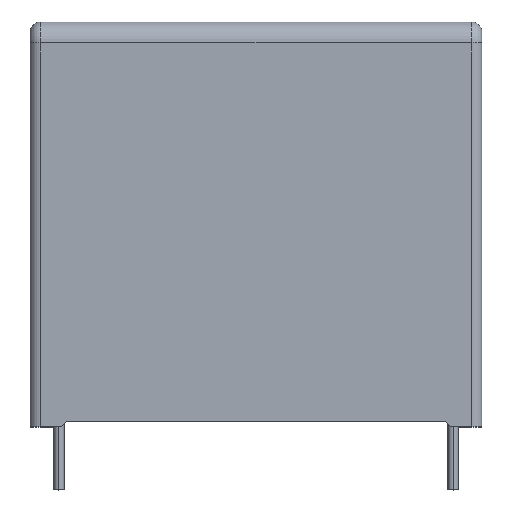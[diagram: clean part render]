
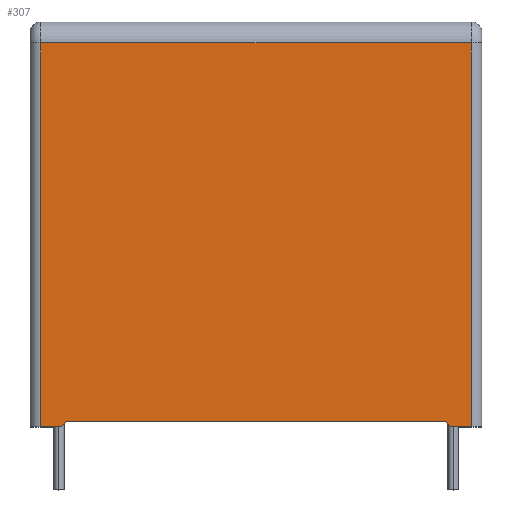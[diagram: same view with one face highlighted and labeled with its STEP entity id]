
A CAD part, top view. The second image highlights one B-rep face of the part: STEP entity #307.
In plain terms, the highlighted planar face has unit normal (0, 0, 1).
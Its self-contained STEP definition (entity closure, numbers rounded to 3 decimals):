
#73 = CARTESIAN_POINT ( 'NONE',  ( 20.5, 0., 10.75 ) ) ;
#91 = CARTESIAN_POINT ( 'NONE',  ( 18., 0.5, 10.75 ) ) ;
#307 = ADVANCED_FACE ( 'NONE', ( #355 ), #1691, .F. ) ;
#355 = FACE_OUTER_BOUND ( 'NONE', #1961, .T. ) ;
#478 = CARTESIAN_POINT ( 'NONE',  ( -18.5, 0., 10.75 ) ) ;
#519 = CARTESIAN_POINT ( 'NONE',  ( -21.5, 36.5, 10.75 ) ) ;
#652 = CARTESIAN_POINT ( 'NONE',  ( -18.5, 0., 10.75 ) ) ;
#699 = VECTOR ( 'NONE', #3357, 1000. ) ;
#919 = AXIS2_PLACEMENT_3D ( 'NONE', #1685, #1672, #1662 ) ;
#955 = LINE ( 'NONE', #3065, #699 ) ;
#1083 = CARTESIAN_POINT ( 'NONE',  ( -20.5, 0., 10.75 ) ) ;
#1128 = CARTESIAN_POINT ( 'NONE',  ( 18., 0.5, 10.75 ) ) ;
#1350 = EDGE_CURVE ( 'NONE', #1977, #2040, #955, .T. ) ;
#1431 = EDGE_CURVE ( 'NONE', #2050, #2539, #3815, .T. ) ;
#1466 = LINE ( 'NONE', #2249, #2009 ) ;
#1593 = ORIENTED_EDGE ( 'NONE', *, *, #1684, .T. ) ;
#1616 = ORIENTED_EDGE ( 'NONE', *, *, #1431, .F. ) ;
#1662 = DIRECTION ( 'NONE',  ( -1., 0., 0. ) ) ;
#1672 = DIRECTION ( 'NONE',  ( 0., 0., -1. ) ) ;
#1684 = EDGE_CURVE ( 'NONE', #2501, #2539, #2239, .T. ) ;
#1685 = CARTESIAN_POINT ( 'NONE',  ( -21.5, 38.5, 10.75 ) ) ;
#1691 = PLANE ( 'NONE',  #919 ) ;
#1738 = ORIENTED_EDGE ( 'NONE', *, *, #2137, .T. ) ;
#1746 = DIRECTION ( 'NONE',  ( -1., 0., 0. ) ) ;
#1850 = VECTOR ( 'NONE', #1746, 1000. ) ;
#1921 = EDGE_CURVE ( 'NONE', #2491, #2501, #3146, .T. ) ;
#1961 = EDGE_LOOP ( 'NONE', ( #2870, #4249, #4025, #4089, #1738, #3739, #1593, #1616 ) ) ;
#1977 = VERTEX_POINT ( 'NONE', #2758 ) ;
#2009 = VECTOR ( 'NONE', #3542, 1000. ) ;
#2012 = LINE ( 'NONE', #3426, #4472 ) ;
#2040 = VERTEX_POINT ( 'NONE', #73 ) ;
#2045 = VERTEX_POINT ( 'NONE', #3944 ) ;
#2050 = VERTEX_POINT ( 'NONE', #2053 ) ;
#2053 = CARTESIAN_POINT ( 'NONE',  ( -18., 0.5, 10.75 ) ) ;
#2137 = EDGE_CURVE ( 'NONE', #2045, #2491, #4321, .T. ) ;
#2138 = VERTEX_POINT ( 'NONE', #91 ) ;
#2202 = CARTESIAN_POINT ( 'NONE',  ( -21.5, 0., 10.75 ) ) ;
#2239 = LINE ( 'NONE', #2202, #3756 ) ;
#2249 = CARTESIAN_POINT ( 'NONE',  ( -18., 0.5, 10.75 ) ) ;
#2381 = CARTESIAN_POINT ( 'NONE',  ( -20.5, 38.5, 10.75 ) ) ;
#2391 = EDGE_CURVE ( 'NONE', #2040, #2045, #2012, .T. ) ;
#2491 = VERTEX_POINT ( 'NONE', #3729 ) ;
#2501 = VERTEX_POINT ( 'NONE', #1083 ) ;
#2539 = VERTEX_POINT ( 'NONE', #652 ) ;
#2565 = DIRECTION ( 'NONE',  ( 1., 0., 0. ) ) ;
#2623 = EDGE_CURVE ( 'NONE', #1977, #2138, #4407, .T. ) ;
#2758 = CARTESIAN_POINT ( 'NONE',  ( 18.5, 0., 10.75 ) ) ;
#2857 = EDGE_CURVE ( 'NONE', #2138, #2050, #1466, .T. ) ;
#2870 = ORIENTED_EDGE ( 'NONE', *, *, #2857, .F. ) ;
#3065 = CARTESIAN_POINT ( 'NONE',  ( -21.5, 0., 10.75 ) ) ;
#3066 = VECTOR ( 'NONE', #4209, 1000. ) ;
#3146 = LINE ( 'NONE', #2381, #3066 ) ;
#3357 = DIRECTION ( 'NONE',  ( 1., 0., 0. ) ) ;
#3426 = CARTESIAN_POINT ( 'NONE',  ( 20.5, 38.5, 10.75 ) ) ;
#3496 = DIRECTION ( 'NONE',  ( -0.707, 0.707, 0. ) ) ;
#3542 = DIRECTION ( 'NONE',  ( -1., 0., 0. ) ) ;
#3599 = VECTOR ( 'NONE', #3659, 1000. ) ;
#3619 = VECTOR ( 'NONE', #3496, 1000. ) ;
#3659 = DIRECTION ( 'NONE',  ( -0.707, -0.707, 0. ) ) ;
#3729 = CARTESIAN_POINT ( 'NONE',  ( -20.5, 36.5, 10.75 ) ) ;
#3739 = ORIENTED_EDGE ( 'NONE', *, *, #1921, .T. ) ;
#3756 = VECTOR ( 'NONE', #2565, 1000. ) ;
#3815 = LINE ( 'NONE', #478, #3599 ) ;
#3944 = CARTESIAN_POINT ( 'NONE',  ( 20.5, 36.5, 10.75 ) ) ;
#4016 = DIRECTION ( 'NONE',  ( 0., 1., 0. ) ) ;
#4025 = ORIENTED_EDGE ( 'NONE', *, *, #1350, .T. ) ;
#4089 = ORIENTED_EDGE ( 'NONE', *, *, #2391, .T. ) ;
#4209 = DIRECTION ( 'NONE',  ( 0., -1., 0. ) ) ;
#4249 = ORIENTED_EDGE ( 'NONE', *, *, #2623, .F. ) ;
#4321 = LINE ( 'NONE', #519, #1850 ) ;
#4407 = LINE ( 'NONE', #1128, #3619 ) ;
#4472 = VECTOR ( 'NONE', #4016, 1000. ) ;
